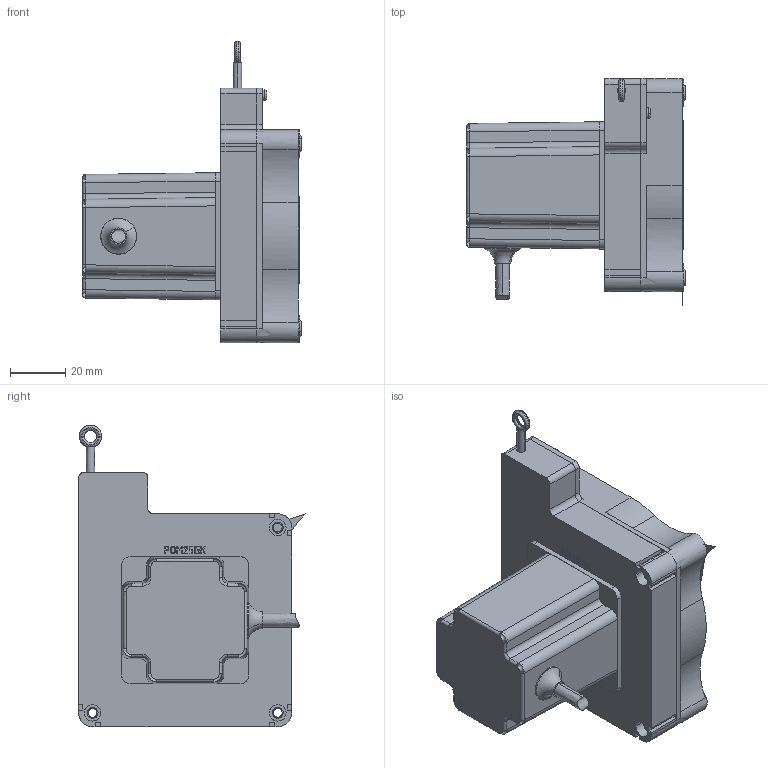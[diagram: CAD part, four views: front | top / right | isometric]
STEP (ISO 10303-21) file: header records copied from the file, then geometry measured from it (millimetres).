
FILE_DESCRIPTION((''),'2;1');
FILE_NAME('WPS-2100-CR-P_SW0001','2010-05-27T',('15000261'),(''),'PRO/ENGINEER BY PARAMETRIC TECHNOLOGY CORPORATION, 2006100','PRO/ENGINEER BY PARAMETRIC TECHNOLOGY CORPORATION, 2006100','');
FILE_SCHEMA(('CONFIG_CONTROL_DESIGN'));
Products named in the file (1): WPS-2100-CR-P_SW0001
Bounding box: 79.1 x 81.96 x 109 mm (x, y, z)
Surface area: 36871.6 mm2 (no closed solid volume)
Topology: 0 solids, 0 shells, 377 faces, 2349 edges, 2327 vertices
Faces by surface type: bspline 353, torus 24
Entity records: 49119 total; most frequent: CARTESIAN_POINT 28903, DIRECTION 3037, TRIMMED_CURVE 2662, VECTOR 2335, LINE 2335, DEFINITIONAL_REPRESENTATION 2305, PCURVE 2305, COMPOSITE_CURVE_SEGMENT 2305
